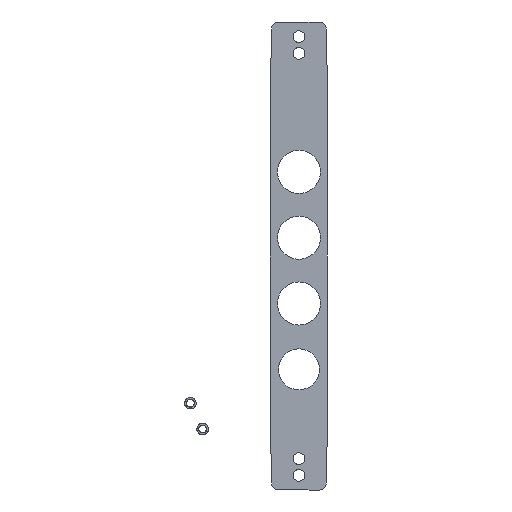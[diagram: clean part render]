
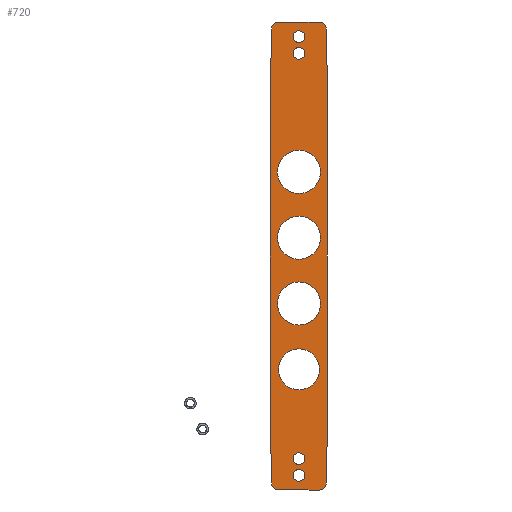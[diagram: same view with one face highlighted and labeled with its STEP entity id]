
A CAD part, left-side view. The second image highlights one B-rep face of the part: STEP entity #720.
In plain terms, the highlighted planar face has unit normal (-1, 0, 0).
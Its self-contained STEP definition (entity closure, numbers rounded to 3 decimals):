
#47=FACE_BOUND('',#146,.T.);
#48=FACE_BOUND('',#147,.T.);
#49=FACE_BOUND('',#148,.T.);
#50=FACE_BOUND('',#149,.T.);
#51=FACE_BOUND('',#150,.T.);
#52=FACE_BOUND('',#151,.T.);
#53=FACE_BOUND('',#152,.T.);
#54=FACE_BOUND('',#153,.T.);
#64=PLANE('',#826);
#95=FACE_OUTER_BOUND('',#145,.T.);
#145=EDGE_LOOP('',(#617,#618,#619,#620,#621,#622,#623,#624,#625,#626,#627,
#628));
#146=EDGE_LOOP('',(#629));
#147=EDGE_LOOP('',(#630));
#148=EDGE_LOOP('',(#631));
#149=EDGE_LOOP('',(#632));
#150=EDGE_LOOP('',(#633));
#151=EDGE_LOOP('',(#634));
#152=EDGE_LOOP('',(#635));
#153=EDGE_LOOP('',(#636));
#181=LINE('',#1164,#229);
#191=LINE('',#1223,#239);
#195=LINE('',#1235,#243);
#199=LINE('',#1245,#247);
#201=LINE('',#1248,#249);
#202=LINE('',#1250,#250);
#203=LINE('',#1253,#251);
#204=LINE('',#1254,#252);
#229=VECTOR('',#947,10.);
#239=VECTOR('',#1001,10.);
#243=VECTOR('',#1015,10.);
#247=VECTOR('',#1025,10.);
#249=VECTOR('',#1029,10.);
#250=VECTOR('',#1030,10.);
#251=VECTOR('',#1033,10.);
#252=VECTOR('',#1034,10.);
#283=CIRCLE('',#793,5.);
#303=CIRCLE('',#816,5.);
#304=CIRCLE('',#819,4.);
#305=CIRCLE('',#821,4.);
#306=CIRCLE('',#824,5.);
#307=CIRCLE('',#827,5.);
#308=CIRCLE('',#828,4.);
#309=CIRCLE('',#829,4.);
#310=CIRCLE('',#830,14.75);
#311=CIRCLE('',#831,14.75);
#312=CIRCLE('',#832,14.75);
#313=CIRCLE('',#833,14.);
#336=VERTEX_POINT('',#1151);
#337=VERTEX_POINT('',#1152);
#341=VERTEX_POINT('',#1162);
#366=VERTEX_POINT('',#1216);
#367=VERTEX_POINT('',#1218);
#368=VERTEX_POINT('',#1222);
#369=VERTEX_POINT('',#1226);
#370=VERTEX_POINT('',#1230);
#371=VERTEX_POINT('',#1234);
#372=VERTEX_POINT('',#1238);
#373=VERTEX_POINT('',#1240);
#374=VERTEX_POINT('',#1244);
#375=VERTEX_POINT('',#1249);
#376=VERTEX_POINT('',#1251);
#377=VERTEX_POINT('',#1255);
#378=VERTEX_POINT('',#1257);
#379=VERTEX_POINT('',#1259);
#380=VERTEX_POINT('',#1261);
#381=VERTEX_POINT('',#1263);
#382=VERTEX_POINT('',#1265);
#417=EDGE_CURVE('',#336,#337,#283,.T.);
#423=EDGE_CURVE('',#336,#341,#181,.T.);
#450=EDGE_CURVE('',#366,#367,#303,.T.);
#452=EDGE_CURVE('',#368,#367,#191,.T.);
#455=EDGE_CURVE('',#369,#369,#304,.T.);
#457=EDGE_CURVE('',#370,#370,#305,.T.);
#458=EDGE_CURVE('',#371,#368,#195,.T.);
#461=EDGE_CURVE('',#372,#373,#306,.T.);
#463=EDGE_CURVE('',#374,#373,#199,.T.);
#465=EDGE_CURVE('',#341,#374,#201,.T.);
#466=EDGE_CURVE('',#372,#375,#202,.T.);
#467=EDGE_CURVE('',#376,#375,#307,.T.);
#468=EDGE_CURVE('',#376,#371,#203,.T.);
#469=EDGE_CURVE('',#366,#337,#204,.T.);
#470=EDGE_CURVE('',#377,#377,#308,.T.);
#471=EDGE_CURVE('',#378,#378,#309,.T.);
#472=EDGE_CURVE('',#379,#379,#310,.T.);
#473=EDGE_CURVE('',#380,#380,#311,.T.);
#474=EDGE_CURVE('',#381,#381,#312,.T.);
#475=EDGE_CURVE('',#382,#382,#313,.T.);
#617=ORIENTED_EDGE('',*,*,#417,.F.);
#618=ORIENTED_EDGE('',*,*,#423,.T.);
#619=ORIENTED_EDGE('',*,*,#465,.T.);
#620=ORIENTED_EDGE('',*,*,#463,.T.);
#621=ORIENTED_EDGE('',*,*,#461,.F.);
#622=ORIENTED_EDGE('',*,*,#466,.T.);
#623=ORIENTED_EDGE('',*,*,#467,.F.);
#624=ORIENTED_EDGE('',*,*,#468,.T.);
#625=ORIENTED_EDGE('',*,*,#458,.T.);
#626=ORIENTED_EDGE('',*,*,#452,.T.);
#627=ORIENTED_EDGE('',*,*,#450,.F.);
#628=ORIENTED_EDGE('',*,*,#469,.T.);
#629=ORIENTED_EDGE('',*,*,#455,.T.);
#630=ORIENTED_EDGE('',*,*,#457,.T.);
#631=ORIENTED_EDGE('',*,*,#470,.T.);
#632=ORIENTED_EDGE('',*,*,#471,.T.);
#633=ORIENTED_EDGE('',*,*,#472,.T.);
#634=ORIENTED_EDGE('',*,*,#473,.T.);
#635=ORIENTED_EDGE('',*,*,#474,.T.);
#636=ORIENTED_EDGE('',*,*,#475,.F.);
#720=ADVANCED_FACE('',(#95,#47,#48,#49,#50,#51,#52,#53,#54),#64,.T.);
#793=AXIS2_PLACEMENT_3D('',#1153,#937,#938);
#816=AXIS2_PLACEMENT_3D('',#1219,#996,#997);
#819=AXIS2_PLACEMENT_3D('',#1228,#1006,#1007);
#821=AXIS2_PLACEMENT_3D('',#1232,#1011,#1012);
#824=AXIS2_PLACEMENT_3D('',#1241,#1020,#1021);
#826=AXIS2_PLACEMENT_3D('',#1247,#1027,#1028);
#827=AXIS2_PLACEMENT_3D('',#1252,#1031,#1032);
#828=AXIS2_PLACEMENT_3D('',#1256,#1035,#1036);
#829=AXIS2_PLACEMENT_3D('',#1258,#1037,#1038);
#830=AXIS2_PLACEMENT_3D('',#1260,#1039,#1040);
#831=AXIS2_PLACEMENT_3D('',#1262,#1041,#1042);
#832=AXIS2_PLACEMENT_3D('',#1264,#1043,#1044);
#833=AXIS2_PLACEMENT_3D('',#1266,#1045,#1046);
#937=DIRECTION('center_axis',(1.,0.,0.));
#938=DIRECTION('ref_axis',(0.,-0.701,-0.713));
#947=DIRECTION('',(0.,-0.017,1.));
#996=DIRECTION('center_axis',(1.,0.,0.));
#997=DIRECTION('ref_axis',(0.,0.701,-0.713));
#1001=DIRECTION('',(0.,-0.017,-1.));
#1006=DIRECTION('center_axis',(1.,0.,0.));
#1007=DIRECTION('ref_axis',(0.,0.,
1.));
#1011=DIRECTION('center_axis',(1.,0.,0.));
#1012=DIRECTION('ref_axis',(0.,0.,
1.));
#1015=DIRECTION('',(0.,0.,-1.));
#1020=DIRECTION('center_axis',(1.,0.,0.));
#1021=DIRECTION('ref_axis',(0.,-0.701,0.713));
#1025=DIRECTION('',(0.,0.017,1.));
#1027=DIRECTION('center_axis',(-1.,0.,0.));
#1028=DIRECTION('ref_axis',(0.,0.,
1.));
#1029=DIRECTION('',(0.,0.,1.));
#1030=DIRECTION('',(0.,1.,0.));
#1031=DIRECTION('center_axis',(1.,0.,0.));
#1032=DIRECTION('ref_axis',(0.,0.701,0.713));
#1033=DIRECTION('',(0.,0.017,-1.));
#1034=DIRECTION('',(0.,-1.,0.));
#1035=DIRECTION('center_axis',(1.,0.,0.));
#1036=DIRECTION('ref_axis',(0.,0.,-1.));
#1037=DIRECTION('center_axis',(1.,0.,0.));
#1038=DIRECTION('ref_axis',(0.,0.,-1.));
#1039=DIRECTION('center_axis',(1.,0.,0.));
#1040=DIRECTION('ref_axis',(0.,0.,-1.));
#1041=DIRECTION('center_axis',(1.,0.,0.));
#1042=DIRECTION('ref_axis',(0.,0.,-1.));
#1043=DIRECTION('center_axis',(1.,0.,0.));
#1044=DIRECTION('ref_axis',(0.,0.,-1.));
#1045=DIRECTION('center_axis',(-1.,0.,0.));
#1046=DIRECTION('ref_axis',(0.,0.,
1.));
#1151=CARTESIAN_POINT('',(-8.,-92.984,-54.479));
#1152=CARTESIAN_POINT('',(-8.,-87.984,-59.392));
#1153=CARTESIAN_POINT('Origin',(-8.,-87.984,-54.392));
#1162=CARTESIAN_POINT('',(-8.,-93.718,-12.392));
#1164=CARTESIAN_POINT('',(-8.,-94.291,20.421));
#1216=CARTESIAN_POINT('',(-8.,-60.452,-59.392));
#1218=CARTESIAN_POINT('',(-8.,-55.453,-54.479));
#1219=CARTESIAN_POINT('Origin',(-8.,-60.452,-54.392));
#1222=CARTESIAN_POINT('',(-8.,-54.718,-12.392));
#1223=CARTESIAN_POINT('',(-8.,-53.735,43.921));
#1226=CARTESIAN_POINT('',(-8.,-74.218,-41.892));
#1228=CARTESIAN_POINT('Origin',(-8.,-74.218,-37.892));
#1230=CARTESIAN_POINT('',(-8.,-74.218,-53.392));
#1232=CARTESIAN_POINT('Origin',(-8.,-74.218,-49.392));
#1234=CARTESIAN_POINT('',(-8.,-54.718,213.608));
#1235=CARTESIAN_POINT('',(-8.,-54.718,260.608));
#1238=CARTESIAN_POINT('',(-8.,-87.984,260.608));
#1240=CARTESIAN_POINT('',(-8.,-92.984,255.695));
#1241=CARTESIAN_POINT('Origin',(-8.,-87.984,255.608));
#1244=CARTESIAN_POINT('',(-8.,-93.718,213.608));
#1245=CARTESIAN_POINT('',(-8.,-94.291,180.795));
#1247=CARTESIAN_POINT('Origin',(-8.,-74.218,100.608));
#1248=CARTESIAN_POINT('',(-8.,-93.718,-59.392));
#1249=CARTESIAN_POINT('',(-8.,-60.452,260.608));
#1250=CARTESIAN_POINT('',(-8.,-93.718,260.608));
#1251=CARTESIAN_POINT('',(-8.,-55.453,255.695));
#1252=CARTESIAN_POINT('Origin',(-8.,-60.452,255.608));
#1253=CARTESIAN_POINT('',(-8.,-53.735,157.295));
#1254=CARTESIAN_POINT('',(-8.,-54.718,-59.392));
#1255=CARTESIAN_POINT('',(-8.,-74.218,243.108));
#1256=CARTESIAN_POINT('Origin',(-8.,-74.218,239.108));
#1257=CARTESIAN_POINT('',(-8.,-74.218,254.608));
#1258=CARTESIAN_POINT('Origin',(-8.,-74.218,250.608));
#1259=CARTESIAN_POINT('',(-8.,-74.218,172.858));
#1260=CARTESIAN_POINT('Origin',(-8.,-74.218,158.108));
#1261=CARTESIAN_POINT('',(-8.,-74.218,127.858));
#1262=CARTESIAN_POINT('Origin',(-8.,-74.218,113.108));
#1263=CARTESIAN_POINT('',(-8.,-74.218,82.858));
#1264=CARTESIAN_POINT('Origin',(-8.,-74.218,68.108));
#1265=CARTESIAN_POINT('',(-8.,-74.218,9.108));
#1266=CARTESIAN_POINT('Origin',(-8.,-74.218,23.108));
